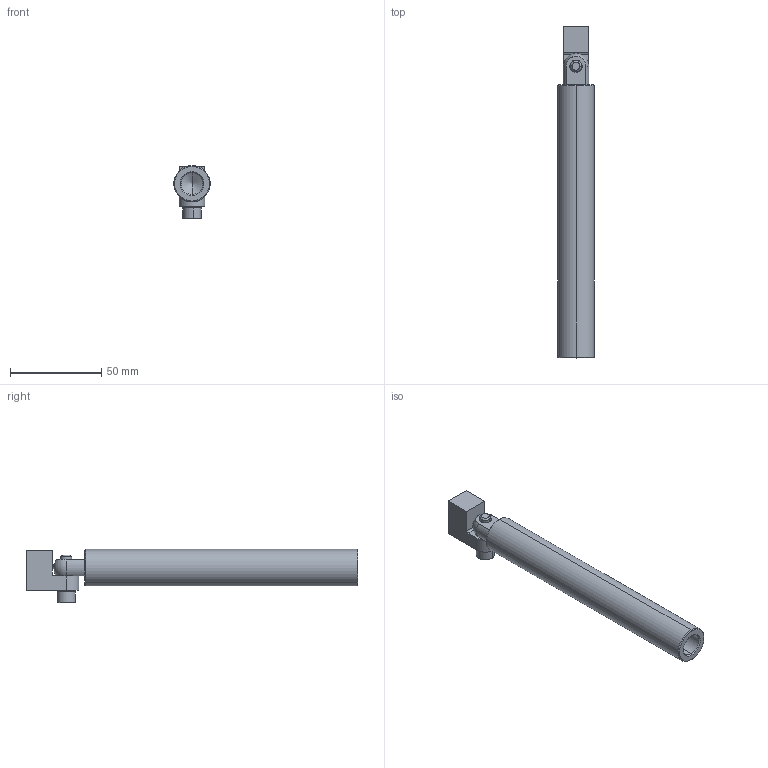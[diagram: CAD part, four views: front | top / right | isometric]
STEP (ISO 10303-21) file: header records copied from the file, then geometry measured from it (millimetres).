
FILE_DESCRIPTION (( 'STEP AP214' ), '1' );
FILE_NAME ('SEAV-G1820L153T.STEP', '2023-02-02T03:27:21', ( 'Windows User' ), ( 'P R C' ), 'SwSTEP 2.0', 'SolidWorks 2019', '' );
FILE_SCHEMA (( 'AUTOMOTIVE_DESIGN' ));
Length unit declared in the file: millimetre
Products named in the file (1): SEAV-G1820L153T
Bounding box: 20 x 182 x 29.1 mm (x, y, z)
Surface area: 19997.2 mm2 (no closed solid volume)
Topology: 0 solids, 5 shells, 213 faces, 600 edges, 392 vertices
Faces by surface type: plane 165, cylinder 26, cone 18, bspline 2, sphere 2
Entity records: 9562 total; most frequent: CARTESIAN_POINT 1524, DIRECTION 1218, ORIENTED_EDGE 1176, EDGE_CURVE 590, AXIS2_PLACEMENT_3D 424, VERTEX_POINT 388, VECTOR 370, LINE 370
